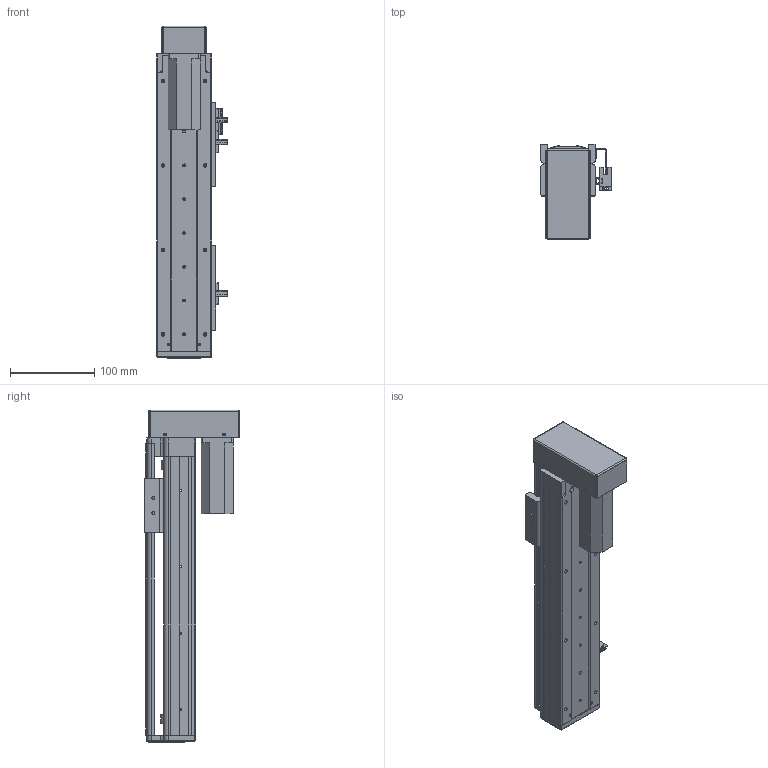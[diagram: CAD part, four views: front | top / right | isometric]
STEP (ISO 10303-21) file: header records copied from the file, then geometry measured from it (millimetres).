
FILE_DESCRIPTION (( 'STEP AP203' ), '1' );
FILE_NAME ('RY60-L1210-300-BK.SLDASM_200.step', '2021-02-20T06:42:02', ( '盈信电脑' ), ( '东莞市道滘镇水果街19号' ), 'SwSTEP 2.0', 'SolidWorks 2012', '' );
FILE_SCHEMA (( 'CONFIG_CONTROL_DESIGN' ));
Length unit declared in the file: millimetre
Products named in the file (13): RY60-L1210-300-BK.SLDASM_200; RY60狟殏萇儂假蚾啣; 侂狟100W; RY60狟殏萇儂欶100W; RY80俋离覜茼え; RY60转折电机端支撑座; RY60綴裔啣; 覜茼ん672; RY60臏賑輸; 672嫖萇羲壽假蚾釱; RY60-300倰第裔啣-BK_200; RY60-300倰第菁釱-BK_200; 滅袉蝶18-10
Assembly tree (18 placements, depth 2):
  RY60-L1210-300-BK.SLDASM_200
    RY60-300倰第菁釱-BK_200
    RY60臏賑輸
    RY60-300倰第裔啣-BK_200
    672嫖萇羲壽假蚾釱  x2
    RY60綴裔啣
    覜茼ん672  x3
    RY80俋离覜茼え
    RY60转折电机端支撑座
    RY60狟殏萇儂假蚾啣
    侂狟100W
    RY60狟殏萇儂欶100W
    滅袉蝶18-10  x4
Bounding box: 83.7 x 113.5 x 393 mm (x, y, z)
Volume: 629505.4 mm3; surface area: 304774.4 mm2
Topology: 18 solids, 18 shells, 1378 faces, 3824 edges, 2450 vertices
Faces by surface type: plane 695, cylinder 564, cone 102, bspline 17
Entity records: 40307 total; most frequent: CARTESIAN_POINT 9257, ORIENTED_EDGE 6228, DIRECTION 6074, EDGE_CURVE 3114, AXIS2_PLACEMENT_3D 2077, VERTEX_POINT 2030, LINE 1920, VECTOR 1920
